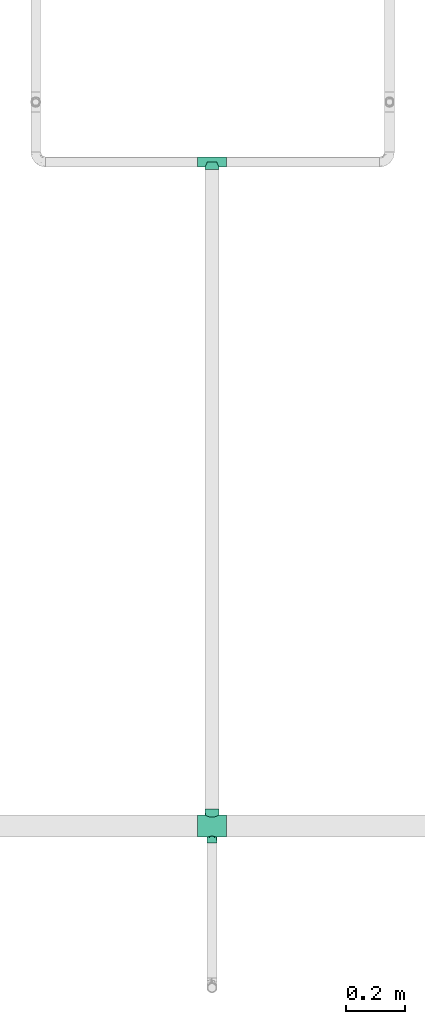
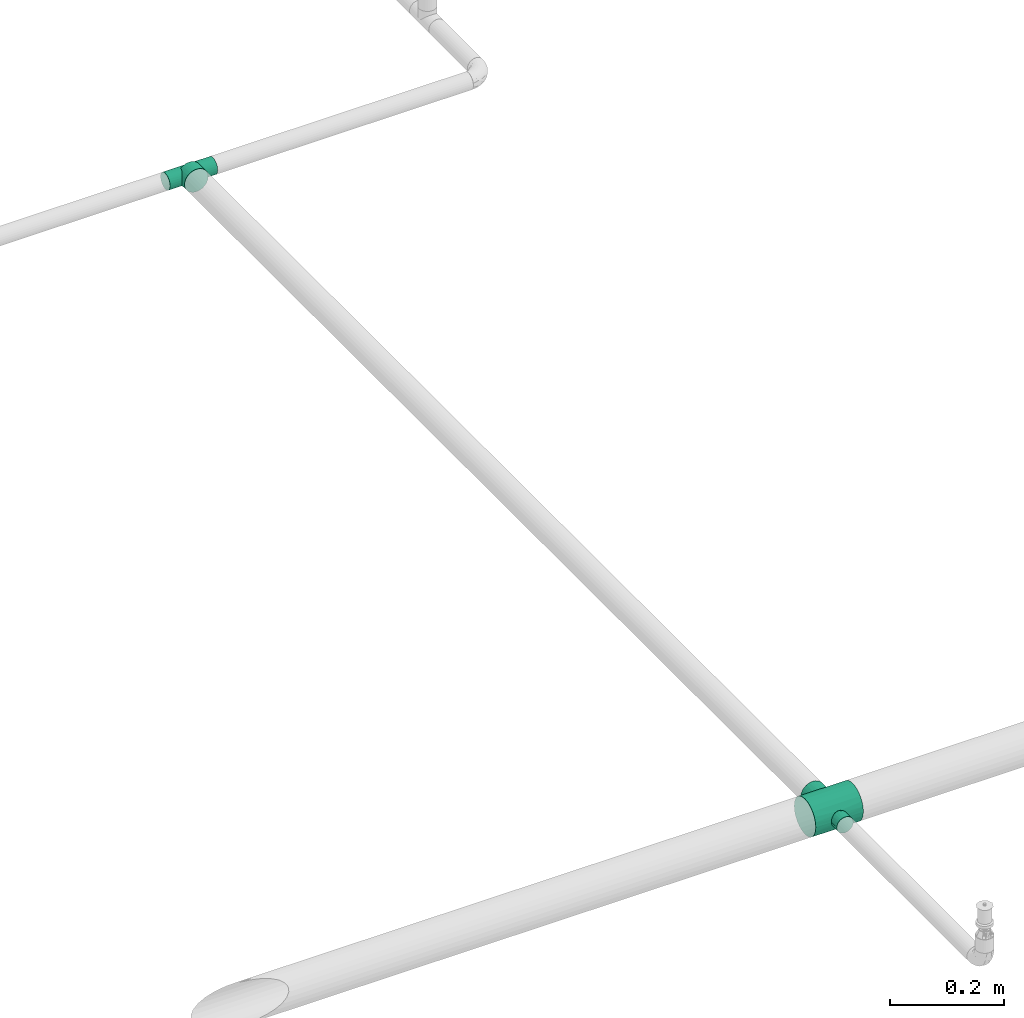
# One storey, part 31 of 31: 2 flow fittings.
"""IFC2X3 building model written with IfcOpenShell, lengths in millimetres."""

import ifcopenshell
import ifcopenshell.guid

model = None  # the IFC model being written
_history = None  # IfcOwnerHistory: only IFC2X3 demands one
_inside = {}  # id of a spatial element -> (the spatial element, [elements in it])
_under = {}  # id of a project, library or spatial element -> (it, [spatial elements below it])
_declared = {}  # id of a project -> (the project, [libraries it declares])
_typed = {}  # id of a type object -> (the type object, [elements of that type])
_made_of = {}  # id of a material, layer set ... -> (it, [elements and type objects made of it])


def new_model(schema):
    """Start an empty IFC model of exactly this schema.

    Asked for "IFC4X3", IfcOpenShell would pick the latest addendum, in which some entities
    have other attributes; the version numbers below select the first issue.
    IFC2X3 requires an IfcOwnerHistory on every rooted entity: one is made here for all.
    """
    global model, _history
    if schema == "IFC4X3":
        model = ifcopenshell.file(schema_version=(4, 3, 0, 0))
    else:
        model = ifcopenshell.file(schema=schema)
    _inside.clear()
    _under.clear()
    _declared.clear()
    _typed.clear()
    _made_of.clear()
    _history = None
    if model.schema == "IFC2X3":
        org = make("IfcOrganization", Name="unknown")
        user = make(
            "IfcPersonAndOrganization",
            ThePerson=make("IfcPerson", FamilyName="unknown"),
            TheOrganization=org,
        )
        app = make(
            "IfcApplication",
            ApplicationDeveloper=org,
            Version="unknown",
            ApplicationFullName="unknown",
            ApplicationIdentifier="unknown",
        )
        _history = make(
            "IfcOwnerHistory",
            OwningUser=user,
            OwningApplication=app,
            ChangeAction="ADDED",
            CreationDate=0,
        )
    return model


def make(cls, **values):
    """One entity of the class cls with the attributes given. An attribute that is None is left unset."""
    return model.create_entity(
        cls, **{name: value for name, value in values.items() if value is not None}
    )


def entity(cls, *values):
    """Any entity or typed value of the class cls, its attributes in the order of the schema. None: left unset."""
    e = model.create_entity(cls)
    for i, value in enumerate(values):
        if value is not None:
            e[i] = value
    return e


def rooted(cls, **values):
    """An entity with a GlobalId (a new one), such as an element, a storey or a relation."""
    return make(cls, GlobalId=ifcopenshell.guid.new(), OwnerHistory=_history, **values)


def si_unit(unit_type, name, prefix=None):
    """IfcSIUnit, for example si_unit("LENGTHUNIT", "METRE", prefix="MILLI")."""
    return make("IfcSIUnit", UnitType=unit_type, Prefix=prefix, Name=name)


def converted_unit(unit_type, name, factor, base, dimensions=None, offset=None):
    """IfcConversionBasedUnit, such as the inch: factor (a typed value) times the base unit."""
    return make(
        "IfcConversionBasedUnit"
        if offset is None
        else "IfcConversionBasedUnitWithOffset",
        ConversionOffset=offset,
        Dimensions=None
        if dimensions is None
        else entity("IfcDimensionalExponents", *dimensions),
        UnitType=unit_type,
        Name=name,
        ConversionFactor=make(
            "IfcMeasureWithUnit", ValueComponent=factor, UnitComponent=base
        ),
    )


def derived_unit(unit_type, elements):
    """IfcDerivedUnit: a product of units, each with its exponent."""
    return make(
        "IfcDerivedUnit",
        Elements=[
            make("IfcDerivedUnitElement", Unit=unit, Exponent=power)
            for unit, power in elements
        ],
        UnitType=unit_type,
    )


def assignment(units):
    """IfcUnitAssignment: the units of a project."""
    return None if units is None else make("IfcUnitAssignment", Units=units)


def point(xyz):
    """IfcCartesianPoint."""
    return None if xyz is None else make("IfcCartesianPoint", Coordinates=xyz)


def direction(xyz):
    """IfcDirection."""
    return None if xyz is None else make("IfcDirection", DirectionRatios=xyz)


def frame(location, z_axis=None, x_axis=None):
    """IfcAxis2Placement3D, a coordinate frame: its origin and axes. An axis left out is left unset."""
    return make(
        "IfcAxis2Placement3D",
        Location=point(location),
        Axis=direction(z_axis),
        RefDirection=direction(x_axis),
    )


def origin_with_axes():
    """The frame at (0, 0, 0) with the z axis (0, 0, 1) and the x axis (1, 0, 0) written out."""
    return frame((0.0, 0.0, 0.0), z_axis=(0.0, 0.0, 1.0), x_axis=(1.0, 0.0, 0.0))


def place(relative_to, where):
    """IfcLocalPlacement: puts the frame where relative to a parent placement (None: the world)."""
    return make(
        "IfcLocalPlacement", PlacementRelTo=relative_to, RelativePlacement=where
    )


def context(
    kind, dimensions, precision=None, world=None, true_north=None, identifier=None
):
    """IfcGeometricRepresentationContext, for example the 3D "Model" context."""
    return make(
        "IfcGeometricRepresentationContext",
        ContextIdentifier=identifier,
        ContextType=kind,
        CoordinateSpaceDimension=dimensions,
        Precision=precision,
        WorldCoordinateSystem=world,
        TrueNorth=true_north,
    )


def subcontext(parent, identifier, kind, view, scale=None):
    """IfcGeometricRepresentationSubContext, for example "Body" below "Model"."""
    return make(
        "IfcGeometricRepresentationSubContext",
        ContextIdentifier=identifier,
        ContextType=kind,
        ParentContext=parent,
        TargetScale=scale,
        TargetView=view,
    )


def project(units=None, contexts=None):
    """IfcProject with its units and contexts."""
    return rooted(
        "IfcProject",
        Name="project",
        RepresentationContexts=contexts,
        UnitsInContext=assignment(units),
    )


def spatial(cls, under=None, at=None, **own):
    """A site, building, storey or space (cls), placed at a placement, below another one or the project."""
    s = rooted(cls, ObjectPlacement=at, **own)
    if under is not None:
        _under.setdefault(under.id(), (under, []))[1].append(s)
    return s


def faces_of(points, faces, orient=None, outer=None):
    """IfcFace entities. A face is a list of loops; a loop is a list of indices into points, from 0.

    orient and outer hold one flag for each loop. By default every Orientation is true, the
    first loop of a face is its IfcFaceOuterBound and the others are IfcFaceBound.
    """
    made = []
    for i, loops in enumerate(faces):
        bounds = []
        for j, loop in enumerate(loops):
            is_outer = j == 0 if outer is None else outer[i][j]
            bounds.append(
                make(
                    "IfcFaceOuterBound" if is_outer else "IfcFaceBound",
                    Bound=make("IfcPolyLoop", Polygon=[points[k] for k in loop]),
                    Orientation=True if orient is None else orient[i][j],
                )
            )
        made.append(make("IfcFace", Bounds=bounds))
    return made


def open_shell(faces, orient=None, outer=None):
    """The faces of one IfcOpenShell. surface_model builds it on its shared points."""
    return ("IfcOpenShell", faces, orient, outer)


def surface_model(cls, points, shells):
    """IfcFaceBasedSurfaceModel or IfcShellBasedSurfaceModel (cls): surfaces that need not close."""
    shared = [point(p) for p in points]
    made = [make(c, CfsFaces=faces_of(shared, fs, o, b)) for c, fs, o, b in shells]
    if cls == "IfcFaceBasedSurfaceModel":
        return make(cls, FbsmFaces=made)
    return make(cls, SbsmBoundary=made)


def shape(context_of_items, identifier, shape_type, items):
    """IfcShapeRepresentation: the items that make up one representation, for example the "Body"."""
    return make(
        "IfcShapeRepresentation",
        ContextOfItems=context_of_items,
        RepresentationIdentifier=identifier,
        RepresentationType=shape_type,
        Items=items,
    )


def source(mapping_origin, context_of_items, identifier, shape_type, items):
    """IfcRepresentationMap: a shape defined once, which mapped items show again and again."""
    return make(
        "IfcRepresentationMap",
        MappingOrigin=mapping_origin,
        MappedRepresentation=shape(context_of_items, identifier, shape_type, items),
    )


def transform(
    local_origin,
    x_axis=None,
    y_axis=None,
    z_axis=None,
    scale=None,
    scale2=None,
    scale3=None,
    uniform=True,
):
    """IfcCartesianTransformationOperator3D, or its non-uniform kind. x_axis, y_axis, z_axis: its Axis1, 2, 3."""
    if uniform:
        return make(
            "IfcCartesianTransformationOperator3D",
            Axis1=direction(x_axis),
            Axis2=direction(y_axis),
            LocalOrigin=point(local_origin),
            Scale=scale,
            Axis3=direction(z_axis),
        )
    return make(
        "IfcCartesianTransformationOperator3DnonUniform",
        Axis1=direction(x_axis),
        Axis2=direction(y_axis),
        LocalOrigin=point(local_origin),
        Scale=scale,
        Axis3=direction(z_axis),
        Scale2=scale2,
        Scale3=scale3,
    )


def mapped(mapping_source, mapping_target):
    """IfcMappedItem: shows the shape of a source again, moved by a transform."""
    return make(
        "IfcMappedItem", MappingSource=mapping_source, MappingTarget=mapping_target
    )


def made_of(thing, what):
    """Note that an element or type object is made of a material, layer set ...; save() writes the relation."""
    if what is not None:
        _made_of.setdefault(what.id(), (what, []))[1].append(thing)
    return thing


def type_object(cls, material=None, **own):
    """A type object (cls), such as IfcWallType, which elements share."""
    return made_of(rooted(cls, **own), material)


def element(
    cls,
    number,
    at=None,
    inside=None,
    cuts=None,
    type_object=None,
    material=None,
    context=None,
    identifier="Body",
    shape_type=None,
    held_by="IfcProductDefinitionShape",
    body=None,
    shapes=None,
    **own,
):
    """One element of the class cls, such as IfcWall. Its Tag is "e" and its number.

    at: its placement. inside: the storey or other place that contains it. cuts: it is an
    opening in that element (IfcRelVoidsElement). A single representation is given by context,
    identifier, shape_type and body (its items); several are given by shapes. held_by: the class
    of the entity that holds the representations. save() writes the other relations.
    """
    e = rooted(cls, Tag="e%d" % number, ObjectPlacement=at, **own)
    if body is not None:
        shapes = [shape(context, identifier, shape_type, body)]
    if shapes is not None:
        e.Representation = make(held_by, Representations=shapes)
    if inside is not None:
        _inside.setdefault(inside.id(), (inside, []))[1].append(e)
    if cuts is not None:
        rooted(
            "IfcRelVoidsElement", RelatingBuildingElement=cuts, RelatedOpeningElement=e
        )
    if type_object is not None:
        _typed.setdefault(type_object.id(), (type_object, []))[1].append(e)
    return made_of(e, material)


def aggregate(whole, parts):
    """IfcRelAggregates: a whole, such as a stair, and the parts it consists of."""
    return rooted("IfcRelAggregates", RelatingObject=whole, RelatedObjects=parts)


def save(model, path):
    """Write the relations noted so far, then the file.

    IfcRelAggregates (storeys below a building ...), IfcRelContainedInSpatialStructure (elements
    in a storey), IfcRelDefinesByType, IfcRelAssociatesMaterial and IfcRelDeclares: one each for
    every whole, place, type object, material and project.
    """
    for whole, parts in _under.values():
        aggregate(whole, parts)
    for where, things in _inside.values():
        rooted(
            "IfcRelContainedInSpatialStructure",
            RelatedElements=things,
            RelatingStructure=where,
        )
    for kind, things in _typed.values():
        rooted("IfcRelDefinesByType", RelatedObjects=things, RelatingType=kind)
    for what, things in _made_of.values():
        rooted("IfcRelAssociatesMaterial", RelatedObjects=things, RelatingMaterial=what)
    for by, libraries in _declared.values():
        rooted("IfcRelDeclares", RelatingContext=by, RelatedDefinitions=libraries)
    model.write(path)


model = new_model("IFC2X3")

# Units and contexts
model_context = context("Model", 3, precision=0.01, world=frame((0.0, 4.29681676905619e-09, 0.0)), true_north=direction((4.01073788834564e-13, 1.0)))
plan_context = context("Plan", 3, precision=0.01, world=frame((0.0, 4.29681676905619e-09, 0.0)), true_north=direction((4.01073788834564e-13, 1.0)))
body_context = subcontext(model_context, "Body", "Model", "MODEL_VIEW")
ifc_project = project(units=[converted_unit("PLANEANGLEUNIT", "DEGREE", entity("IfcPositiveLengthMeasure", 0.0174532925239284), si_unit("PLANEANGLEUNIT", "RADIAN"), dimensions=[0, 0, 0, 0, 0, 0, 0]), si_unit("AREAUNIT", "SQUARE_METRE"), si_unit("LENGTHUNIT", "METRE", prefix="MILLI"), si_unit("MASSUNIT", "GRAM", prefix="KILO"), si_unit("POWERUNIT", "WATT"), si_unit("PRESSUREUNIT", "PASCAL", prefix="KILO"), si_unit("FORCEUNIT", "NEWTON", prefix="KILO"), si_unit("ELECTRICVOLTAGEUNIT", "VOLT"), si_unit("ELECTRICCURRENTUNIT", "AMPERE"), si_unit("THERMODYNAMICTEMPERATUREUNIT", "DEGREE_CELSIUS"), si_unit("TIMEUNIT", "SECOND"), si_unit("VOLUMEUNIT", "CUBIC_METRE"), derived_unit("LINEARVELOCITYUNIT", [(si_unit("LENGTHUNIT", "METRE"), 1), (si_unit("TIMEUNIT", "SECOND"), -1)]), derived_unit("VOLUMETRICFLOWRATEUNIT", [(si_unit("VOLUMEUNIT", "CUBIC_METRE"), 1), (si_unit("TIMEUNIT", "SECOND"), -1)]), derived_unit("THERMALTRANSMITTANCEUNIT", [(si_unit("POWERUNIT", "WATT"), 1), (si_unit("THERMODYNAMICTEMPERATUREUNIT", "KELVIN"), -1), (si_unit("AREAUNIT", "SQUARE_METRE"), -1)]), derived_unit("SOUNDPRESSUREUNIT", [(si_unit("PRESSUREUNIT", "PASCAL"), 1)])], contexts=[model_context, plan_context])

# Site, building, storey
site_placement = place(None, frame((0.0, -4.29681676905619e-09, 0.0), z_axis=(0.0, 0.0, 1.0), x_axis=(1.0, 0.0, 0.0)))
site = spatial("IfcSite", under=ifc_project, at=site_placement, CompositionType="ELEMENT")
building_placement = place(site_placement, frame((0.0, 4.29681676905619e-09, 0.0), z_axis=(0.0, 0.0, 1.0), x_axis=(1.0, 0.0, 0.0)))
building = spatial("IfcBuilding", under=site, at=building_placement, Name="mc-building", CompositionType="ELEMENT")
storey_placement = place(building_placement, frame((0.0, 0.0, 200300.0), z_axis=(0.0, 0.0, 1.0), x_axis=(1.0, 0.0, 0.0)))
storey = spatial("IfcBuildingStorey", under=building, at=storey_placement, Name="Nivå C", CompositionType="ELEMENT", Elevation=200300.0)

# Flow fittings
pipe_fitting_type_1 = type_object("IfcPipeFittingType", Name="magi_pipe_fe_tee_centric_90_NOR", PredefinedType="JUNCTION")
shared_shape_1 = source(origin_with_axes(), body_context, "Body", "SurfaceModel", [
    surface_model("IfcShellBasedSurfaceModel", [(-48.4, 4.37404, -16.32415), (-48.4, 0.0, -16.9), (-48.4, 16.32415, -4.37404), (-48.4, 8.45, -14.63583), (-48.4, 11.9501, -11.9501), (-48.4, 14.63583, -8.45), (-48.4, -16.9, 0.0), (-48.4, -11.9501, -11.9501), (-48.4, -14.63583, -8.45), (-48.4, -8.45, -14.63583), (-48.4, -4.37404, -16.32415), (-48.4, -16.32415, -4.37404), (-48.4, -8.45, 14.63583), (-48.4, 14.63583, 8.45), (-48.4, 16.32415, 4.37404), (-48.4, 8.45, 14.63583), (-48.4, 11.9501, 11.9501), (-48.4, 4.37404, 16.32415), (-48.4, -11.9501, 11.9501), (-48.4, -14.63583, 8.45), (-48.4, -16.32415, 4.37404), (-48.4, -4.37404, 16.32415), (-48.4, 0.0, 16.9), (-48.4, 16.9, 0.0), (48.4, 4.37404, -16.32415), (48.4, -16.9, 0.0), (48.4, 0.0, -16.9), (48.4, 11.9501, -11.9501), (48.4, 8.45, -14.63583), (48.4, 14.63583, -8.45), (48.4, 16.32415, -4.37404), (48.4, -11.9501, -11.9501), (48.4, -8.45, -14.63583), (48.4, -4.37404, -16.32415), (48.4, -14.63583, -8.45), (48.4, -16.32415, -4.37404), (48.4, 16.32415, 4.37404), (48.4, 8.45, 14.63583), (48.4, 14.63583, 8.45), (48.4, -16.32415, 4.37404), (48.4, 11.9501, 11.9501), (48.4, -8.45, 14.63583), (48.4, 4.37404, 16.32415), (48.4, -14.63583, 8.45), (48.4, -11.9501, 11.9501), (48.4, 0.0, 16.9), (48.4, -4.37404, 16.32415), (48.4, 16.9, 0.0), (23.88418, -16.44457, 3.89692), (48.4, -15.47999, 6.41202), (23.00671, -15.14195, 7.50542), (23.44544, -15.79326, 5.70117), (24.2, -16.9, 0.0), (20.27443, -10.53672, 13.21315), (48.4, -10.20005, 13.29297), (21.73564, -13.13043, 10.63963), (48.4, -13.29297, 10.20005), (21.00504, -11.83358, 11.92639), (22.37118, -14.13619, 9.07253), (-23.00671, -15.14195, 7.50542), (-22.37118, -14.13619, 9.07253), (-48.4, -15.47999, 6.41202), (-23.44544, -15.79326, 5.70117), (-24.2, -16.9, 0.0), (-23.88418, -16.44457, 3.89692), (18.85043, -7.43699, 15.17568), (48.4, -6.41202, 15.47999), (-21.00504, -11.83358, 11.92639), (-20.27443, -10.53672, 13.21315), (-18.85043, -7.43699, 15.17568), (-48.4, -13.29297, 10.20005), (-48.4, -10.20005, 13.29297), (-48.4, -6.41202, 15.47999), (-21.73564, -13.13043, 10.63963), (17.75071, -3.88043, 16.44847), (17.32137, 0.0, 16.9), (-17.32137, 0.0, 16.9), (-17.75071, -3.88043, 16.44847), (-48.4, -15.47999, -6.41202), (-23.00671, -15.14195, -7.50542), (-23.44544, -15.79326, -5.70117), (17.75071, -3.88043, -16.44847), (17.32137, 0.0, -16.9), (-22.37118, -14.13619, -9.07253), (-48.4, -13.29297, -10.20005), (-21.73564, -13.13043, -10.63963), (-18.85043, -7.43699, -15.17568), (-48.4, -6.41202, -15.47999), (-17.32137, 0.0, -16.9), (23.44544, -15.79326, -5.70117), (48.4, -15.47999, -6.41202), (-17.75071, -3.88043, -16.44847), (-23.88418, -16.44457, -3.89692), (-20.27443, -10.53672, -13.21315), (-48.4, -10.20005, -13.29297), (48.4, -6.41202, -15.47999), (22.37118, -14.13619, -9.07253), (48.4, -13.29297, -10.20005), (20.27443, -10.53672, -13.21315), (48.4, -10.20005, -13.29297), (21.00504, -11.83358, -11.92639), (23.00671, -15.14195, -7.50542), (18.85043, -7.43699, -15.17568), (21.73564, -13.13043, -10.63963), (23.88418, -16.44457, -3.89692), (-21.00504, -11.83358, -11.92639), (0.0, -25.35, -24.2), (6.26342, -25.35, -23.37541), (12.1, -25.35, -20.95781), (12.1, -25.35, 20.95781), (17.11198, -25.35, -17.11198), (20.95781, -25.35, -12.1), (23.37541, -25.35, -6.26342), (-12.1, -25.35, -20.95781), (-20.95781, -25.35, -12.1), (-17.11198, -25.35, -17.11198), (-6.26342, -25.35, -23.37541), (-23.37541, -25.35, -6.26342), (-24.2, -25.35, 0.0), (24.2, -25.35, 0.0), (23.37541, -25.35, 6.26342), (20.95781, -25.35, 12.1), (-23.37541, -25.35, 6.26342), (17.11198, -25.35, 17.11198), (6.26342, -25.35, 23.37541), (-17.11198, -25.35, 17.11198), (-20.95781, -25.35, 12.1), (-12.1, -25.35, 20.95781), (0.0, -25.35, 24.2), (-6.26342, -25.35, 23.37541), (-23.7877, -25.35, 3.13171), (-13.05143, 0.0, 20.37892), (-8.10841, 0.0, 22.80118), (-2.74697, 0.0, 24.04359), (2.75572, 0.0, 24.04259), (8.11548, 0.0, 22.79866), (13.05561, 0.0, 20.37623), (23.7877, -25.35, 3.13171), (23.7877, -25.35, -3.13171), (13.05561, 0.0, -20.37623), (8.11548, 0.0, -22.79866), (2.75572, 0.0, -24.04259), (-23.7877, -25.35, -3.13171), (-8.10841, 0.0, -22.80118), (-13.05143, 0.0, -20.37892), (-2.74697, 0.0, -24.04359)], [open_shell([[[0, 1, 2]], [[3, 0, 4]], [[0, 2, 5]], [[4, 0, 5]], [[6, 2, 1]], [[7, 8, 9]], [[1, 10, 9]], [[11, 6, 8]], [[1, 9, 8]], [[1, 8, 6]], [[6, 12, 2]], [[13, 14, 2]], [[2, 15, 13]], [[2, 12, 15]], [[16, 13, 15]], [[12, 17, 15]], [[18, 12, 19]], [[20, 19, 12]], [[21, 22, 12]], [[12, 6, 20]], [[12, 22, 17]], [[23, 2, 14]], [[24, 25, 26]], [[27, 24, 28]], [[29, 30, 24]], [[29, 24, 27]], [[25, 24, 30]], [[26, 31, 32]], [[32, 33, 26]], [[34, 25, 35]], [[31, 26, 34]], [[25, 34, 26]], [[30, 36, 25]], [[25, 36, 37]], [[37, 36, 38]], [[37, 39, 25]], [[37, 38, 40]], [[41, 37, 42]], [[43, 41, 44]], [[41, 43, 39]], [[41, 45, 46]], [[41, 39, 37]], [[42, 45, 41]], [[30, 47, 36]], [[25, 39, 48]], [[49, 50, 51]], [[48, 52, 25]], [[39, 49, 51]], [[53, 44, 54]], [[49, 43, 50]], [[54, 41, 53]], [[44, 55, 56]], [[55, 44, 57]], [[39, 51, 48]], [[43, 58, 50]], [[19, 59, 60]], [[44, 53, 57]], [[59, 61, 62]], [[20, 62, 61]], [[63, 64, 6]], [[6, 64, 20]], [[20, 64, 62]], [[65, 41, 66]], [[18, 67, 68]], [[58, 56, 55]], [[56, 58, 43]], [[12, 68, 69]], [[70, 19, 60]], [[18, 68, 71]], [[69, 72, 12]], [[70, 60, 73]], [[18, 73, 67]], [[53, 41, 65]], [[74, 45, 75]], [[66, 74, 65]], [[74, 66, 46]], [[74, 46, 45]], [[73, 18, 70]], [[75, 45, 42]], [[38, 36, 14]], [[16, 37, 40]], [[13, 40, 38]], [[42, 37, 15]], [[23, 36, 47]], [[22, 76, 17]], [[68, 12, 71]], [[21, 77, 22]], [[72, 77, 21]], [[22, 77, 76]], [[76, 75, 17]], [[77, 72, 69]], [[42, 17, 75]], [[15, 17, 42]], [[15, 37, 16]], [[13, 16, 40]], [[14, 13, 38]], [[36, 23, 14]], [[59, 19, 61]], [[78, 79, 80]], [[27, 4, 29]], [[5, 30, 29]], [[3, 27, 28]], [[23, 47, 30]], [[26, 33, 81]], [[26, 82, 24]], [[82, 26, 81]], [[83, 84, 85]], [[28, 24, 0]], [[86, 9, 87]], [[82, 88, 24]], [[35, 89, 90]], [[2, 30, 5]], [[3, 4, 27]], [[5, 29, 4]], [[23, 30, 2]], [[1, 88, 91]], [[11, 80, 92]], [[93, 7, 94]], [[91, 86, 87]], [[88, 1, 0]], [[1, 91, 10]], [[87, 10, 91]], [[0, 3, 28]], [[88, 0, 24]], [[33, 95, 81]], [[34, 96, 97]], [[31, 98, 99]], [[98, 31, 100]], [[101, 34, 90]], [[32, 98, 102]], [[96, 103, 97]], [[35, 25, 104]], [[84, 83, 8]], [[101, 90, 89]], [[52, 104, 25]], [[31, 103, 100]], [[89, 35, 104]], [[93, 9, 86]], [[98, 32, 99]], [[93, 94, 9]], [[7, 105, 85]], [[7, 85, 84]], [[103, 31, 97]], [[81, 95, 102]], [[34, 101, 96]], [[7, 93, 105]], [[92, 63, 6]], [[11, 78, 80]], [[79, 78, 8]], [[11, 92, 6]], [[79, 8, 83]], [[32, 102, 95]], [[106, 107, 108]], [[109, 106, 108]], [[110, 111, 112]], [[110, 112, 108]], [[109, 113, 106]], [[113, 114, 115]], [[113, 116, 106]], [[113, 117, 114]], [[117, 113, 118]], [[113, 109, 118]], [[119, 108, 112]], [[119, 120, 121]], [[119, 121, 109]], [[109, 122, 118]], [[109, 121, 123]], [[122, 109, 124]], [[122, 125, 126]], [[122, 124, 125]], [[127, 128, 129]], [[128, 127, 125]], [[124, 128, 125]], [[109, 108, 119]], [[130, 122, 64]], [[63, 118, 130]], [[64, 122, 59]], [[126, 125, 68]], [[125, 127, 131]], [[122, 126, 59]], [[132, 127, 129]], [[59, 126, 73]], [[68, 125, 69]], [[126, 68, 73]], [[77, 125, 131]], [[132, 131, 127]], [[77, 131, 76]], [[69, 125, 77]], [[132, 129, 133]], [[129, 128, 133]], [[124, 134, 128]], [[109, 135, 124]], [[63, 130, 64]], [[123, 136, 109]], [[119, 52, 137]], [[121, 120, 50]], [[137, 52, 48]], [[123, 121, 53]], [[48, 120, 137]], [[48, 50, 120]], [[74, 75, 136]], [[136, 135, 109]], [[135, 134, 124]], [[53, 121, 55]], [[74, 136, 123]], [[123, 65, 74]], [[123, 53, 65]], [[121, 50, 55]], [[128, 134, 133]], [[138, 112, 104]], [[52, 119, 138]], [[104, 112, 101]], [[111, 110, 98]], [[110, 108, 139]], [[112, 111, 101]], [[140, 108, 107]], [[101, 111, 103]], [[98, 110, 102]], [[111, 98, 103]], [[81, 110, 139]], [[140, 139, 108]], [[81, 139, 82]], [[102, 110, 81]], [[140, 107, 141]], [[107, 106, 141]], [[92, 117, 142]], [[143, 116, 113]], [[52, 138, 104]], [[113, 115, 144]], [[145, 106, 116]], [[118, 63, 142]], [[114, 117, 79]], [[142, 63, 92]], [[115, 114, 93]], [[92, 79, 117]], [[145, 116, 143]], [[91, 88, 144]], [[143, 113, 144]], [[93, 114, 85]], [[91, 144, 115]], [[115, 86, 91]], [[115, 93, 86]], [[114, 79, 85]], [[106, 145, 141]], [[75, 76, 133]], [[76, 131, 132]], [[133, 136, 75]], [[133, 134, 135]], [[133, 76, 132]], [[135, 136, 133]], [[144, 141, 145]], [[145, 143, 144]], [[140, 141, 82]], [[141, 144, 82]], [[82, 144, 88]], [[139, 140, 82]]])]),
])
flow_fitting_1_placement = place(storey_placement, frame((605500.0, 400724.39532, 2900.0), z_axis=(0.0, 0.0, -1.0), x_axis=(-1.0, 0.0, 0.0)))
element("IfcFlowFitting", 1, at=flow_fitting_1_placement, inside=storey, type_object=pipe_fitting_type_1, Name="magi_pipe_fe_tee_centric_90_NOR", context=body_context, shape_type="MappedRepresentation", body=[
    mapped(shared_shape_1, transform((0.0, 0.0, 0.0), scale=1.0)),
])
pipe_fitting_type_2 = type_object("IfcPipeFittingType", Name="magi_pipe_fe_cross_centric_90_001", PredefinedType="JUNCTION")
shared_shape_2 = source(origin_with_axes(), body_context, "Body", "SurfaceModel", [
    surface_model("IfcShellBasedSurfaceModel", [(-4.37404, 57.15, -16.32415), (16.9, 57.15, 0.0), (0.0, 57.15, -16.9), (-14.63583, 57.15, -8.45), (-8.45, 57.15, -14.63583), (-16.32415, 57.15, -4.37404), (-11.9501, 57.15, -11.9501), (-8.45, 57.15, 14.63583), (8.45, 57.15, -14.63583), (4.37404, 57.15, -16.32415), (11.9501, 57.15, -11.9501), (14.63583, 57.15, -8.45), (16.32415, 57.15, -4.37404), (-16.32415, 57.15, 4.37404), (-14.63583, 57.15, 8.45), (16.32415, 57.15, 4.37404), (-11.9501, 57.15, 11.9501), (0.0, 57.15, 16.9), (-4.37404, 57.15, 16.32415), (11.9501, 57.15, 11.9501), (14.63583, 57.15, 8.45), (8.45, 57.15, 14.63583), (4.37404, 57.15, 16.32415), (-16.9, 57.15, 0.0), (16.3806, 37.87537, 2.91686), (12.9317, 36.51341, 10.88031), (15.8612, 37.65073, 5.83372), (8.4904, 35.18646, 14.61243), (16.9, 38.1, 0.0), (2.97221, 34.27585, 16.63658), (5.7313, 34.73116, 15.62451), (-2.96752, 34.27545, 16.63742), (0.00235, 34.27565, 16.637), (-5.72823, 34.73078, 15.62535), (-15.86072, 37.65053, 5.83504), (-16.38036, 37.87526, 2.91752), (-16.9, 38.1, 0.0), (-12.92726, 36.51183, 10.88559), (-8.48894, 35.18611, 14.61328), (-16.38036, 37.87526, -2.91752), (-12.92726, 36.51183, -10.88559), (-15.86072, 37.65053, -5.83504), (-8.48894, 35.18611, -14.61328), (-2.96752, 34.27545, -16.63742), (-5.72823, 34.73078, -15.62535), (2.97221, 34.27585, -16.63658), (0.00235, 34.27565, -16.637), (5.7313, 34.73116, -15.62451), (16.3806, 37.87537, -2.91686), (8.4904, 35.18646, -14.61243), (15.8612, 37.65073, -5.83372), (12.9317, 36.51341, -10.88031), (-48.4, 9.86101, -36.80177), (-48.4, 0.0, -38.1), (-48.4, 36.80177, -9.86101), (-48.4, 19.05, -32.99557), (-48.4, 32.99557, -19.05), (-48.4, 26.94077, -26.94077), (-48.4, -38.1, 0.0), (-48.4, -19.05, -32.99557), (-48.4, -26.94077, -26.94077), (-48.4, -9.86101, -36.80177), (-48.4, -32.99557, -19.05), (-48.4, -36.80177, -9.86101), (-48.4, 38.1, 0.0), (-48.4, 32.99557, 19.05), (-48.4, 36.80177, 9.86101), (-48.4, -36.80177, 9.86101), (-48.4, 19.05, 32.99557), (-48.4, 26.94077, 26.94077), (-48.4, 9.86101, 36.80177), (-48.4, 0.0, 38.1), (-48.4, -26.94077, 26.94077), (-48.4, -32.99557, 19.05), (-48.4, -9.86101, 36.80177), (-48.4, -19.05, 32.99557), (48.4, 0.0, -38.1), (48.4, 9.86101, -36.80177), (48.4, 19.05, -32.99557), (48.4, 26.94077, -26.94077), (48.4, 32.99557, -19.05), (48.4, 36.80177, -9.86101), (48.4, -26.94077, -26.94077), (48.4, -38.1, 0.0), (48.4, -9.86101, -36.80177), (48.4, -19.05, -32.99557), (48.4, -32.99557, -19.05), (48.4, -36.80177, -9.86101), (48.4, 36.80177, 9.86101), (48.4, 32.99557, 19.05), (48.4, 19.05, 32.99557), (48.4, 0.0, 38.1), (48.4, 26.94077, 26.94077), (48.4, 9.86101, 36.80177), (48.4, -32.99557, 19.05), (48.4, -26.94077, 26.94077), (48.4, -36.80177, 9.86101), (48.4, -19.05, 32.99557), (48.4, -9.86101, 36.80177), (48.4, 38.1, 0.0), (22.67163, -37.14799, 8.46387), (24.2, -38.1, 0.0), (-18.46661, -34.7417, 15.64047), (-48.4, -34.89867, 14.4555), (-24.2, -38.1, 0.0), (-22.67247, -37.1485, 8.46164), (-12.20341, -31.85739, 20.89777), (-4.32227, -29.7431, 23.81088), (4.31503, -29.74205, 23.81219), (18.4612, -34.73882, 15.64686), (48.4, -34.89867, 14.4555), (12.20123, -31.85656, -20.89904), (-18.46661, -34.7417, -15.64047), (-48.4, -34.89867, -14.4555), (18.4612, -34.73882, -15.64686), (4.31503, -29.74205, -23.81219), (22.67163, -37.14799, -8.46387), (-4.32227, -29.7431, -23.81088), (-12.20341, -31.85739, -20.89777), (48.4, -34.89867, -14.4555), (-22.67247, -37.1485, -8.46164), (0.0, -57.15, -24.2), (6.26342, -57.15, -23.37541), (12.1, -57.15, -20.95781), (12.1, -57.15, 20.95781), (17.11198, -57.15, -17.11198), (20.95781, -57.15, -12.1), (23.37541, -57.15, -6.26342), (-12.1, -57.15, -20.95781), (-20.95781, -57.15, -12.1), (-17.11198, -57.15, -17.11198), (-6.26342, -57.15, -23.37541), (-23.37541, -57.15, -6.26342), (-24.2, -57.15, 0.0), (24.2, -57.15, 0.0), (23.37541, -57.15, 6.26342), (20.95781, -57.15, 12.1), (-23.37541, -57.15, 6.26342), (17.11198, -57.15, 17.11198), (6.26342, -57.15, 23.37541), (-17.11198, -57.15, 17.11198), (-20.95781, -57.15, 12.1), (-12.1, -57.15, 20.95781), (0.0, -57.15, 24.2), (-6.26342, -57.15, 23.37541), (-23.43623, -37.62425, 4.23082), (-0.00362, -29.74257, 23.81153), (8.25813, -30.7993, 22.35562), (23.43582, -37.62399, 4.23193), (12.20123, -31.85656, 20.89904), (23.43582, -37.62399, -4.23193), (-23.43623, -37.62425, -4.23082), (8.25813, -30.7993, -22.35562), (-0.00362, -29.74257, -23.81153), (48.4, 37.45089, 4.9305), (-48.4, 37.45089, 4.9305), (48.4, 37.45089, -4.9305), (-48.4, 37.45089, -4.9305)], [open_shell([[[0, 1, 2]], [[3, 0, 4]], [[3, 5, 0]], [[3, 4, 6]], [[7, 1, 0]], [[2, 8, 9]], [[2, 10, 8]], [[11, 1, 12]], [[10, 2, 11]], [[2, 1, 11]], [[0, 5, 7]], [[5, 13, 7]], [[7, 13, 14]], [[7, 15, 1]], [[7, 14, 16]], [[17, 7, 18]], [[15, 19, 20]], [[19, 15, 21]], [[21, 17, 22]], [[21, 15, 7]], [[7, 17, 21]], [[5, 23, 13]], [[15, 24, 1]], [[25, 20, 19]], [[15, 20, 26]], [[19, 21, 27]], [[24, 28, 1]], [[26, 20, 25]], [[22, 29, 30]], [[27, 25, 19]], [[17, 31, 32]], [[7, 33, 18]], [[30, 21, 22]], [[30, 27, 21]], [[15, 26, 24]], [[18, 31, 17]], [[34, 14, 13]], [[35, 23, 36]], [[35, 34, 13]], [[16, 14, 37]], [[17, 29, 22]], [[33, 31, 18]], [[7, 38, 33]], [[7, 16, 38]], [[38, 16, 37]], [[37, 14, 34]], [[23, 35, 13]], [[32, 29, 17]], [[5, 39, 23]], [[40, 3, 6]], [[5, 3, 41]], [[6, 4, 42]], [[39, 36, 23]], [[41, 3, 40]], [[0, 43, 44]], [[42, 40, 6]], [[2, 45, 46]], [[8, 47, 9]], [[48, 1, 28]], [[44, 4, 0]], [[44, 42, 4]], [[49, 8, 10]], [[5, 41, 39]], [[50, 11, 12]], [[48, 50, 12]], [[11, 51, 10]], [[2, 43, 0]], [[9, 47, 45]], [[45, 2, 9]], [[49, 47, 8]], [[49, 10, 51]], [[51, 11, 50]], [[1, 48, 12]], [[46, 43, 2]], [[52, 53, 54]], [[55, 52, 54]], [[54, 56, 57]], [[55, 54, 57]], [[58, 54, 53]], [[59, 60, 61]], [[60, 53, 61]], [[62, 63, 60]], [[58, 60, 63]], [[60, 58, 53]], [[58, 64, 54]], [[65, 66, 64]], [[65, 64, 67]], [[68, 65, 67]], [[69, 65, 68]], [[70, 68, 71]], [[72, 71, 73]], [[68, 67, 73]], [[74, 71, 75]], [[72, 75, 71]], [[73, 71, 68]], [[58, 67, 64]], [[76, 77, 78]], [[76, 78, 79]], [[79, 80, 81]], [[76, 79, 82]], [[83, 79, 81]], [[84, 82, 85]], [[84, 76, 82]], [[86, 83, 87]], [[83, 86, 82]], [[79, 83, 82]], [[81, 88, 83]], [[88, 89, 83]], [[83, 89, 90]], [[90, 91, 83]], [[90, 89, 92]], [[91, 90, 93]], [[94, 91, 95]], [[96, 83, 94]], [[97, 91, 98]], [[91, 97, 95]], [[91, 94, 83]], [[88, 81, 99]], [[83, 96, 100]], [[100, 101, 83]], [[102, 73, 103]], [[104, 105, 58]], [[105, 102, 67]], [[106, 107, 72]], [[107, 108, 72]], [[109, 96, 110]], [[93, 90, 68]], [[97, 75, 95]], [[78, 55, 79]], [[78, 52, 55]], [[85, 60, 59]], [[82, 86, 111]], [[112, 63, 113]], [[86, 114, 111]], [[82, 115, 60]], [[116, 114, 87]], [[101, 116, 83]], [[117, 118, 60]], [[114, 86, 119]], [[112, 120, 63]], [[112, 113, 62]], [[121, 122, 123]], [[124, 121, 123]], [[125, 126, 127]], [[125, 127, 123]], [[124, 128, 121]], [[128, 129, 130]], [[128, 131, 121]], [[128, 132, 129]], [[132, 128, 133]], [[128, 124, 133]], [[134, 123, 127]], [[134, 135, 136]], [[134, 136, 124]], [[124, 137, 133]], [[124, 136, 138]], [[137, 124, 139]], [[137, 140, 141]], [[137, 139, 140]], [[142, 143, 144]], [[143, 142, 140]], [[139, 143, 140]], [[124, 123, 134]], [[137, 145, 133]], [[102, 141, 140]], [[137, 141, 105]], [[140, 142, 106]], [[145, 104, 133]], [[105, 141, 102]], [[106, 144, 107]], [[106, 102, 140]], [[143, 108, 146]], [[106, 142, 144]], [[124, 147, 139]], [[148, 134, 101]], [[137, 105, 145]], [[139, 108, 143]], [[100, 136, 135]], [[148, 100, 135]], [[136, 109, 138]], [[143, 107, 144]], [[147, 108, 139]], [[124, 149, 147]], [[124, 138, 149]], [[149, 138, 109]], [[109, 136, 100]], [[134, 148, 135]], [[146, 107, 143]], [[127, 150, 134]], [[114, 126, 125]], [[151, 120, 132]], [[127, 126, 116]], [[125, 123, 111]], [[150, 101, 134]], [[116, 126, 114]], [[122, 115, 152]], [[111, 114, 125]], [[121, 117, 153]], [[121, 115, 122]], [[152, 111, 123]], [[152, 123, 122]], [[127, 116, 150]], [[118, 128, 130]], [[118, 131, 128]], [[120, 129, 132]], [[130, 129, 112]], [[151, 133, 104]], [[117, 121, 131]], [[131, 118, 117]], [[153, 115, 121]], [[118, 130, 112]], [[112, 129, 120]], [[133, 151, 132]], [[97, 98, 74]], [[75, 72, 95]], [[97, 74, 75]], [[98, 71, 74]], [[98, 91, 71]], [[91, 70, 71]], [[78, 77, 52]], [[55, 57, 79]], [[77, 53, 52]], [[77, 76, 53]], [[76, 61, 53]], [[109, 100, 96]], [[110, 94, 109]], [[72, 108, 95]], [[95, 149, 94]], [[149, 95, 108]], [[94, 149, 109]], [[26, 88, 154]], [[105, 67, 58]], [[67, 102, 103]], [[102, 106, 73]], [[106, 72, 73]], [[92, 69, 90]], [[93, 70, 91]], [[29, 92, 89]], [[154, 99, 28]], [[154, 28, 26]], [[25, 27, 88]], [[26, 25, 88]], [[88, 27, 89]], [[29, 89, 27]], [[70, 93, 68]], [[29, 31, 92]], [[36, 155, 34]], [[92, 31, 69]], [[69, 68, 90]], [[69, 31, 65]], [[31, 38, 65]], [[37, 34, 66]], [[38, 37, 66]], [[34, 155, 66]], [[155, 36, 64]], [[38, 66, 65]], [[156, 81, 50]], [[28, 99, 156]], [[51, 50, 81]], [[81, 49, 51]], [[43, 45, 79]], [[49, 80, 45]], [[80, 49, 81]], [[45, 80, 79]], [[28, 156, 50]], [[40, 42, 54]], [[41, 40, 54]], [[41, 157, 36]], [[36, 157, 64]], [[42, 56, 54]], [[43, 57, 56]], [[43, 79, 57]], [[43, 56, 42]], [[60, 85, 82]], [[61, 76, 84]], [[85, 59, 84]], [[82, 111, 115]], [[114, 119, 87]], [[116, 87, 83]], [[41, 54, 157]], [[115, 117, 60]], [[59, 61, 84]], [[118, 62, 60]], [[120, 104, 58]], [[63, 120, 58]], [[112, 62, 118]]])]),
])
flow_fitting_2_placement = place(storey_placement, frame((605500.0, 398472.0, 2900.0), z_axis=(0.0, 0.0, 1.0), x_axis=(-1.0, 0.0, 0.0)))
element("IfcFlowFitting", 2, at=flow_fitting_2_placement, inside=storey, type_object=pipe_fitting_type_2, Name="magi_pipe_fe_cross_centric_90_001", context=body_context, shape_type="MappedRepresentation", body=[
    mapped(shared_shape_2, transform((0.0, 0.0, 0.0), scale=1.0)),
])

save(model, "model.ifc")
